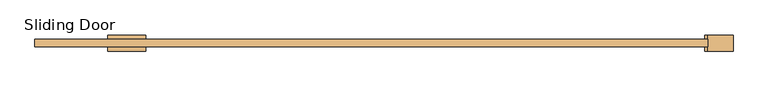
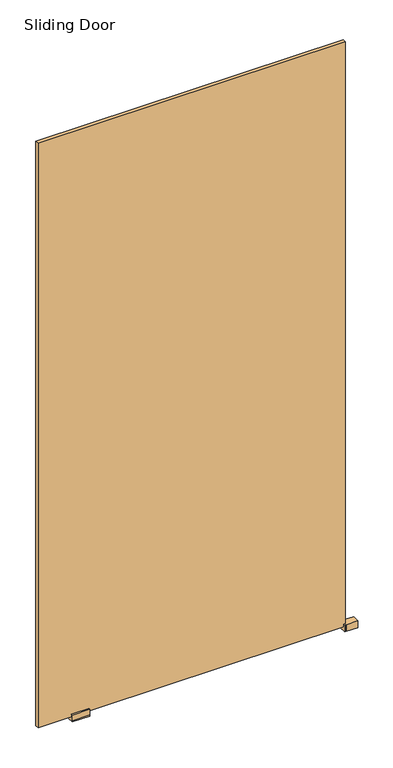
"""IFC4 building model written with IfcOpenShell, lengths in millimetres: door geometry, 2019_EN_Panel_Klein_Nature_Single-Door : Sliding Door."""

from ifc_helpers import new_model, si_unit, frame, origin, origin_with_axes, place, context, project, spatial, polyline, outline, extrude, source, transform, mapped, element, save


def sliding_door_cd3e74ab(model_context):
    return source(origin(), model_context, "Body", "SweptSolid", [
        extrude(outline(polyline([(384.9999999, 5.7), (384.9999999, 17.7), (1444.9999998, 17.7), (1444.9999998, 5.7), (384.9999999, 5.7)])), frame((0.0, 0.0, 15.0), z_axis=(0.0, 0.0, 1.0), x_axis=(1.0, 0.0, 0.0)), (0.0, 0.0, 1.0), 2133.1000015),
        extrude(outline(polyline([(1444.9999998, -0.8), (1444.9999998, 24.2), (1484.9999998, 24.2), (1484.9999998, -0.8), (1444.9999998, -0.8)])), origin_with_axes(), (0.0, 0.0, 1.0), 25.0),
        extrude(outline(polyline([(5.7, 25.0), (5.7, 15.0), (17.7, 15.0), (17.7, 25.0), (24.2, 25.0), (24.2, 5.0), (23.2, 5.0), (23.2, 0.0), (0.2, 0.0), (0.2, 5.0), (-0.8, 5.0), (-0.8, 25.0), (5.7, 25.0)])), frame((499.9999999, 0.0, 0.0), z_axis=(1.0, 0.0, 0.0), x_axis=(0.0, 1.0, 0.0)), (0.0, 0.0, 1.0), 60.0),
        extrude(outline(polyline([(1439.9999998, 24.2), (1444.9999998, 24.2), (1444.9999998, -0.8), (1439.9999998, -0.8), (1439.9999998, 24.2)])), origin_with_axes(), (0.0, 0.0, 1.0), 25.0),
    ])


if __name__ == "__main__":
    model = new_model("IFC4")
    model_context = context("Model", 3, world=origin())
    ifc_project = project(units=[si_unit("LENGTHUNIT", "METRE", prefix="MILLI")], contexts=[model_context])
    site = spatial("IfcSite", under=ifc_project)
    building = spatial("IfcBuilding", under=site)
    placement = place(None, origin())
    sliding_door_shape = sliding_door_cd3e74ab(model_context)
    element("IfcDoor", 1, ObjectType="2019_EN_Panel_Klein_Nature_Single-Door : Sliding Door", at=placement, inside=building, context=model_context, shape_type="MappedRepresentation", body=[
        mapped(sliding_door_shape, transform((0.0, 0.0, 0.0), x_axis=(1.0, 0.0, 0.0), y_axis=(0.0, 1.0, 0.0), z_axis=(0.0, 0.0, 1.0))),
    ])
    save(model, "model.ifc")
